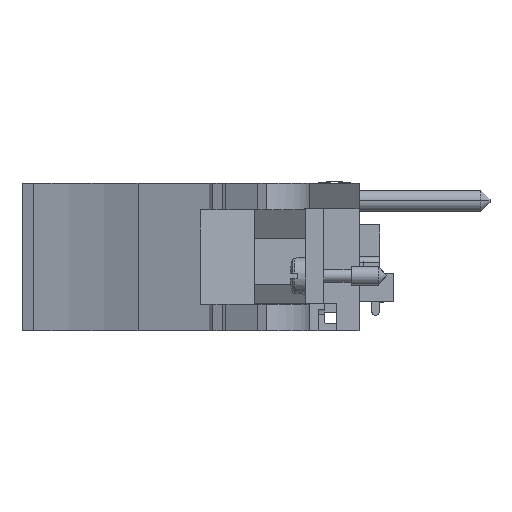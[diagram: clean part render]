
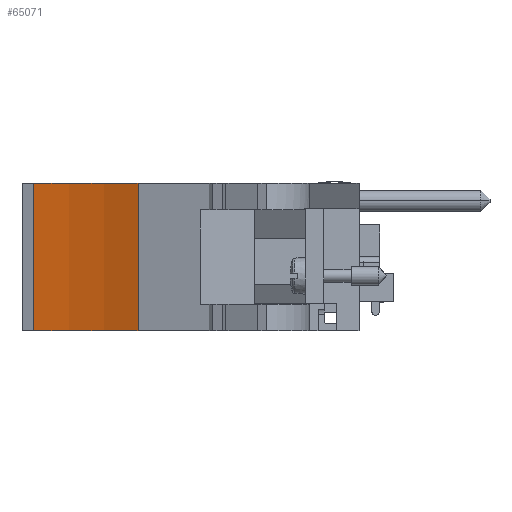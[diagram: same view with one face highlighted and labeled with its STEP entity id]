
A CAD part, front view. The second image highlights one B-rep face of the part: STEP entity #65071.
In plain terms, the highlighted cylindrical face has radius 51.46 mm (diameter 102.919 mm), a partial arc.
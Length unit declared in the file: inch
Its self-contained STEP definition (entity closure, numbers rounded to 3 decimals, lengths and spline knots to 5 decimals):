
#5748=DIRECTION('',(0.,0.,1.));
#5749=VECTOR('',#5748,0.788);
#5750=CARTESIAN_POINT('',(-1.09548,-4.12619,-0.086));
#5751=LINE('',#5750,#5749);
#5809=CARTESIAN_POINT('',(-1.97678,-5.95043,-0.086));
#5810=DIRECTION('',(0.,0.,1.));
#5811=DIRECTION('',(0.435,0.9,0.));
#5812=AXIS2_PLACEMENT_3D('',#5809,#5810,#5811);
#6123=CARTESIAN_POINT('',(-1.97678,-5.95043,0.702));
#6124=DIRECTION('',(0.,0.,1.));
#6125=DIRECTION('',(0.435,0.9,0.));
#6126=AXIS2_PLACEMENT_3D('',#6123,#6124,#6125);
#6367=DIRECTION('',(0.,0.,1.));
#6368=VECTOR('',#6367,0.788);
#6369=CARTESIAN_POINT('',(-1.65345,-3.95043,-0.086));
#6370=LINE('',#6369,#6368);
#56060=CARTESIAN_POINT('',(-1.09548,-4.12619,-0.086));
#56061=CARTESIAN_POINT('',(-1.65345,-3.95043,-0.086));
#56062=VERTEX_POINT('',#56060);
#56063=VERTEX_POINT('',#56061);
#56064=CARTESIAN_POINT('',(-1.09548,-4.12619,0.702));
#56065=CARTESIAN_POINT('',(-1.65345,-3.95043,0.702));
#56066=VERTEX_POINT('',#56064);
#56067=VERTEX_POINT('',#56065);
#65057=CARTESIAN_POINT('',(-1.97678,-5.95043,0.702));
#65058=DIRECTION('',(0.,0.,1.));
#65059=DIRECTION('',(0.,1.,0.));
#65060=AXIS2_PLACEMENT_3D('',#65057,#65058,#65059);
#65061=CYLINDRICAL_SURFACE('',#65060,2.02597);
#65063=ORIENTED_EDGE('',*,*,#65062,.T.);
#65065=ORIENTED_EDGE('',*,*,#65064,.T.);
#65067=ORIENTED_EDGE('',*,*,#65066,.F.);
#65068=ORIENTED_EDGE('',*,*,#65040,.F.);
#65069=EDGE_LOOP('',(#65063,#65065,#65067,#65068));
#65070=FACE_OUTER_BOUND('',#65069,.F.);
#65071=ADVANCED_FACE('',(#65070),#65061,.F.);
#5813=CIRCLE('',#5812,2.02597);
#6127=CIRCLE('',#6126,2.02597);
#65040=EDGE_CURVE('',#56062,#56066,#5751,.T.);
#65062=EDGE_CURVE('',#56062,#56063,#5813,.T.);
#65064=EDGE_CURVE('',#56063,#56067,#6370,.T.);
#65066=EDGE_CURVE('',#56066,#56067,#6127,.T.);
